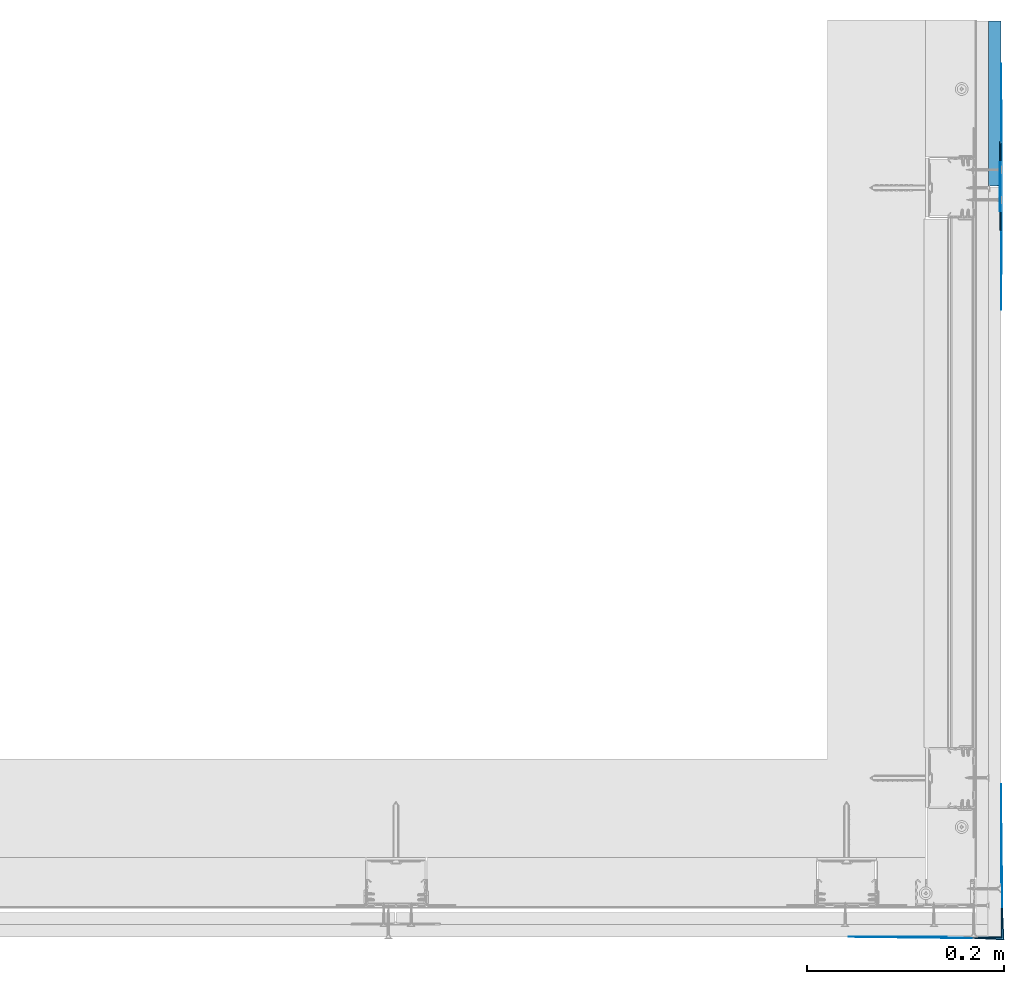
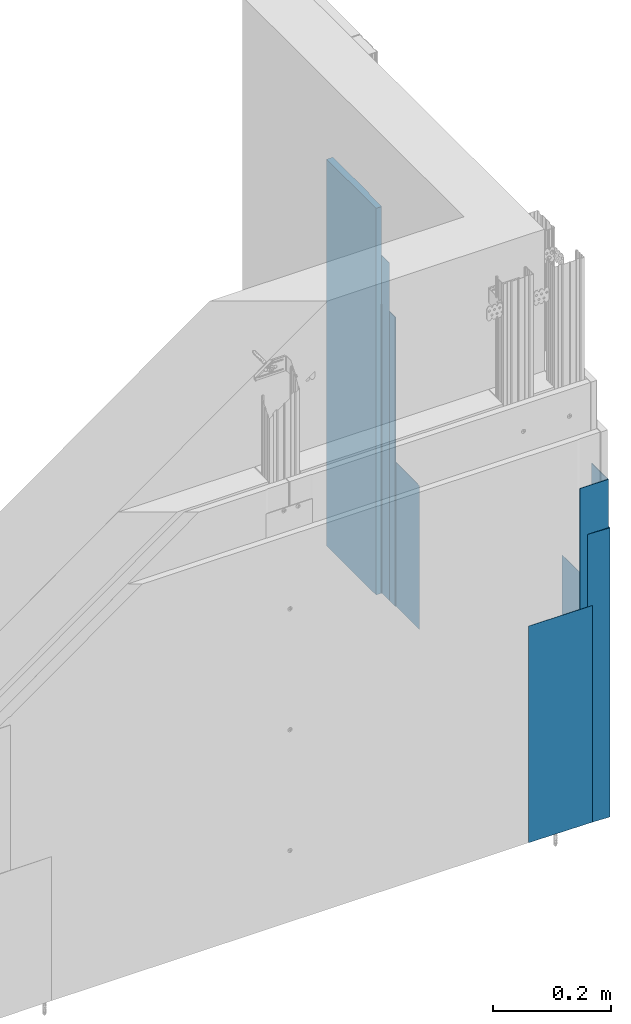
# One storey, part 6 of 56: 8 walls.
"""IFC2X3 building model written with IfcOpenShell, lengths in millimetres."""

from ifc_helpers import new_model, entity, si_unit, converted_unit, direction, frame, origin, origin_with_axes, place, context, project, spatial, faceted_brep, element, save


model = new_model("IFC2X3")

# Units and contexts
model_context = context("Model", 3, precision=1e-05, world=origin(), true_north=direction((0.0, 1.0, 0.0)))
ifc_project = project(units=[si_unit("LENGTHUNIT", "METRE", prefix="MILLI"), si_unit("AREAUNIT", "SQUARE_METRE"), si_unit("VOLUMEUNIT", "CUBIC_METRE"), converted_unit("PLANEANGLEUNIT", "DEGREE", entity("IfcPlaneAngleMeasure", 0.01745), si_unit("PLANEANGLEUNIT", "RADIAN"), dimensions=[0, 0, 0, 0, 0, 0, 0]), si_unit("SOLIDANGLEUNIT", "STERADIAN"), si_unit("MASSUNIT", "GRAM"), si_unit("TIMEUNIT", "SECOND"), si_unit("THERMODYNAMICTEMPERATUREUNIT", "DEGREE_CELSIUS"), si_unit("LUMINOUSINTENSITYUNIT", "LUMEN")], contexts=[model_context])

# Site, building, storey
site_placement = place(None, origin_with_axes())
site = spatial("IfcSite", under=ifc_project, at=site_placement, Name="Default Site", CompositionType="ELEMENT")
building_placement = place(site_placement, origin_with_axes())
building = spatial("IfcBuilding", under=site, at=building_placement, Name="Default Building", CompositionType="ELEMENT")
storey_placement = place(building_placement, origin_with_axes())
storey = spatial("IfcBuildingStorey", under=building, at=storey_placement, Name="Default Building Storey", CompositionType="ELEMENT", Elevation=0.0)

# Walls
wall_1_placement = place(storey_placement, frame((3779.592982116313, 1938.180077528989, 809.1935974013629), z_axis=(0.0, 0.0, 1.0), x_axis=(1.0, 0.0, 0.0)))
element("IfcWall", 1, at=wall_1_placement, inside=storey, Name="Taśma narożnikowa HABITO® NO-COAT®", context=model_context, shape_type="Brep", body=[
    faceted_brep([(40.99999999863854, 43.00000000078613, -201.6515786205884), (42.99999999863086, 7.829129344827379e-10, -201.6515786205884), (42.99999999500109, 3.099887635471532e-09, -800.0015816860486), (40.99999999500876, 43.0000000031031, -800.0015816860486), (-1.233746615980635e-09, 2.00000000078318, -201.6515786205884), (-4.863517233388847e-09, 2.000000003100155, -800.0015816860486), (40.99999999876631, 2.000000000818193, -201.6515786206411), (40.99999999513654, 2.000000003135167, -800.0015816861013)], [[[0, 1, 2, 3]], [[1, 4, 5, 2]], [[6, 4, 1, 0]], [[4, 6, 7, 5]], [[6, 0, 3, 7]], [[7, 3, 2, 5]]]),
])
wall_2_placement = place(storey_placement, frame((3740.592982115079, 1940.180077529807, 607.542018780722), z_axis=(0.0, 0.0, 1.0), x_axis=(1.0, 0.0, 0.0)))
element("IfcWall", 2, at=wall_2_placement, inside=storey, Name="Dedykowana masa szpachlowa Rigips - konstrukcyjna", context=model_context, shape_type="Brep", body=[
    faceted_brep([(23.99999999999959, 9.796337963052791e-10, 100.0000000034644), (23.99999999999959, 1.000000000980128, 100.000000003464), (23.99999999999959, 0.9999999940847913, -598.3500030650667), (23.99999999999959, -5.915703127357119e-09, -598.3500030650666), (79.0000000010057, 1.000000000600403, 100.0000000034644), (79.0000000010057, 0.999999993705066, -598.3500030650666), (79.0000000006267, 56.0000000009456, 100.0000000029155), (79.0000000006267, 55.99999999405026, -598.350003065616), (80.0000000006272, 56.0000000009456, 100.0000000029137), (80.0000000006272, 55.99999999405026, -598.3500030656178), (79.99999999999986, 9.796337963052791e-10, 100.0000000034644), (79.99999999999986, -5.915703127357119e-09, -598.3500030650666)], [[[0, 1, 2, 3]], [[1, 4, 5, 2]], [[4, 6, 7, 5]], [[6, 8, 9, 7]], [[8, 10, 11, 9]], [[10, 0, 3, 11]], [[11, 3, 2, 5, 7, 9]], [[0, 10, 8, 6, 4, 1]]]),
])
wall_3_placement = place(storey_placement, frame((3822.592982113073, 2096.180077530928, 607.5420187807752), z_axis=(0.0, 0.0, 1.0), x_axis=(3.609335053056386e-13, -1.0, 0.0)))
element("IfcWall", 3, at=wall_3_placement, inside=storey, Name="Dedykowana masa szpachlowa Rigips - wykończeniowa", context=model_context, shape_type="Brep", body=[
    faceted_brep([(9.023892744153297e-13, -3.000000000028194, -598.3500030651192), (100.0000000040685, -3.000000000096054, -598.3500030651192), (100.0000000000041, -2.000000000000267, -598.3500030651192), (100.0000000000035, -1.827216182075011, -598.3500030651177), (125.0248246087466, -1.533729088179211, -149.9999999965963), (1.353583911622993e-12, -3.000000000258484, -149.9999999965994), (125.0248246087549, -1.533729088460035, -598.3500030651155), (114.9999999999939, -2.000000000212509, -149.9999999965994), (100.0000000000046, -2.000000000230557, -149.9999999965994), (100.0000000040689, -3.000000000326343, -149.9999999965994)], [[[0, 1, 2, 3]], [[4, 5, 0, 3, 6]], [[4, 7, 8, 9, 5]], [[5, 9, 1, 0]], [[9, 8, 2, 1]]]),
])
wall_4_placement = place(storey_placement, frame((429.0362603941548, 1967.049872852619, 6.742018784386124), z_axis=(0.0, 0.0, 1.0), x_axis=(-5.689893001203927e-16, -1.0, 0.0)))
element("IfcWall", 4, at=wall_4_placement, inside=storey, Name="Dedykowana masa szpachlowa Rigips - konstrukcyjna", context=model_context, shape_type="Brep", body=[
    faceted_brep([(-737.4838396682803, 3387.6695906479, 600.7999999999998), (-737.4592163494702, 3387.356721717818, 600.7999999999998), (-737.434593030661, 3387.6695906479, 600.7999999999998), (-737.3613293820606, 3387.974755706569, 600.7999999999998), (-737.2412293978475, 3388.264702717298, 600.7999999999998), (-737.07725033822, 3388.532292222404, 600.7999999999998), (-736.8734299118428, 3388.770935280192, 600.7999999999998), (-736.6347868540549, 3388.974755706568, 600.7999999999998), (-736.3671973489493, 3389.138734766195, 600.7999999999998), (-736.0772503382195, 3389.258834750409, 600.7999999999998), (-735.7720852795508, 3389.332098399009, 600.7999999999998), (-735.45921634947, 3389.356721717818, 600.7999999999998), (-692.4592163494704, 3389.356721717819, 600.7999999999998), (-691.4592163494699, 3390.556721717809, 600.7999999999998), (-782.4592163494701, 3390.556721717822, 600.7999999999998), (-782.4592163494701, 3389.356721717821, 600.7999999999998), (-739.4592163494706, 3389.356721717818, 600.7999999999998), (-739.1463474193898, 3389.332098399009, 600.7999999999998), (-738.8411823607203, 3389.258834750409, 600.7999999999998), (-738.5512353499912, 3389.138734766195, 600.7999999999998), (-738.2836458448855, 3388.974755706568, 600.7999999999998), (-738.0450027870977, 3388.770935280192, 600.7999999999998), (-737.8411823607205, 3388.532292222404, 600.7999999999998), (-737.6772033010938, 3388.264702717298, 600.7999999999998), (-737.55710331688, 3387.974755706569, 600.7999999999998), (-691.4592163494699, 3390.556721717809, 2.449996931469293), (-692.4592163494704, 3389.356721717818, 2.449996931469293), (-735.45921634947, 3389.356721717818, 2.449996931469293), (-735.7720852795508, 3389.332098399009, 2.449996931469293), (-736.0772503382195, 3389.258834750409, 2.449996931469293), (-736.3671973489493, 3389.138734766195, 2.449996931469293), (-736.6347868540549, 3388.974755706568, 2.449996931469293), (-736.8734299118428, 3388.770935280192, 2.449996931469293), (-737.07725033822, 3388.532292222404, 2.449996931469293), (-737.2412293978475, 3388.264702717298, 2.449996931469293), (-737.3613293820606, 3387.974755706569, 2.449996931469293), (-737.434593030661, 3387.6695906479, 2.449996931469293), (-737.4592163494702, 3387.356721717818, 2.449996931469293), (-737.4838396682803, 3387.6695906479, 2.449996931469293), (-737.55710331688, 3387.974755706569, 2.449996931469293), (-737.6772033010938, 3388.264702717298, 2.449996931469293), (-737.8411823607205, 3388.532292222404, 2.449996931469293), (-738.0450027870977, 3388.770935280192, 2.449996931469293), (-738.2836458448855, 3388.974755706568, 2.449996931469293), (-738.5512353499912, 3389.138734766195, 2.449996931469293), (-738.8411823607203, 3389.258834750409, 2.449996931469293), (-739.1463474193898, 3389.332098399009, 2.449996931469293), (-739.4592163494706, 3389.356721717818, 2.449996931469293), (-782.4592163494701, 3389.356721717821, 2.449996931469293), (-782.4592163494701, 3390.556721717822, 2.449996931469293)], [[[0, 1, 2, 3, 4, 5, 6, 7, 8, 9, 10, 11, 12, 13, 14, 15, 16, 17, 18, 19, 20, 21, 22, 23, 24]], [[25, 26, 27, 28, 29, 30, 31, 32, 33, 34, 35, 36, 37, 38, 39, 40, 41, 42, 43, 44, 45, 46, 47, 48, 49]], [[26, 12, 11, 27]], [[10, 9, 29, 28]], [[28, 27, 11, 10]], [[8, 30, 29, 9]], [[7, 6, 32, 31]], [[31, 30, 8, 7]], [[5, 4, 34, 33]], [[33, 32, 6, 5]], [[3, 35, 34, 4]], [[2, 1, 37, 36]], [[36, 35, 3, 2]], [[0, 24, 39, 38]], [[38, 37, 1, 0]], [[23, 40, 39, 24]], [[22, 21, 42, 41]], [[41, 40, 23, 22]], [[20, 19, 44, 43]], [[43, 42, 21, 20]], [[18, 45, 44, 19]], [[17, 16, 47, 46]], [[46, 45, 18, 17]], [[47, 16, 15, 48]], [[48, 15, 14, 49]], [[49, 14, 13, 25]], [[25, 13, 12, 26]]]),
])
wall_5_placement = place(storey_placement, frame((429.0362603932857, 3440.968305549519, 6.742018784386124), z_axis=(0.0, 0.0, 1.0), x_axis=(-6.390998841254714e-13, 1.0, 0.0)))
element("IfcWall", 5, at=wall_5_placement, inside=storey, Name="Dedykowana masa szpachlowa Rigips - wykończeniowa", context=model_context, shape_type="Brep", body=[
    faceted_brep([(-612.459216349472, -3390.556721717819, 2.449996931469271), (-862.459216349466, -3390.556721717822, 2.449996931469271), (-812.4612643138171, -3391.196716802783, 2.449996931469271), (-762.4602403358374, -3391.516720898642, 2.449996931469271), (-712.458192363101, -3391.516720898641, 2.449996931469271), (-662.4571683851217, -3391.19671680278, 2.449996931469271), (-762.4602403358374, -3391.516720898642, 300.8000000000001), (-812.4612643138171, -3391.196716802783, 300.8000000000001), (-862.459216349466, -3390.556721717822, 300.8000000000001), (-612.459216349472, -3390.556721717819, 300.8000000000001), (-662.4571683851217, -3391.19671680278, 300.8000000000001), (-712.458192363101, -3391.516720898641, 300.8000000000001)], [[[0, 1, 2, 3, 4, 5]], [[6, 7, 8, 9, 10, 11]], [[9, 0, 5, 10]], [[10, 5, 4, 11]], [[11, 4, 3, 6]], [[6, 3, 2, 7]], [[1, 8, 7, 2]], [[0, 9, 8, 1]]]),
])
wall_6_placement = place(storey_placement, frame((3807.092982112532, 3904.509089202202, 1059.193597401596), z_axis=(0.0, 0.0, 1.0), x_axis=(6.387668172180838e-13, -1.0, 0.0)))
element("IfcWall", 6, at=wall_6_placement, inside=storey, Name="Płyta gipsowo-kartonowa RIGIPS PRO (4PRO™)", context=model_context, shape_type="Brep", body=[
    faceted_brep([(1032.492584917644, -2.779358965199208e-10, -249.9999999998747), (1032.492584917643, 12.49999999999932, -249.9999999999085), (1032.492584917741, 12.49999999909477, -1050.001581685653), (1032.492584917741, -1.182490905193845e-09, -1050.00158168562), (1155.0, 12.49999999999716, -249.9999999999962), (1200.0, 1.443822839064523e-12, -249.9999999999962), (1200.000000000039, 10.49999999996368, -249.9999999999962), (1199.965925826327, 10.75881904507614, -249.9999999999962), (1199.866025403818, 10.99999999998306, -249.9999999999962), (1199.707106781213, 11.20710678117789, -249.9999999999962), (1199.50000000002, 11.36602540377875, -249.9999999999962), (1199.258819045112, 11.46592582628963, -249.9999999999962), (1199.0, 11.50000000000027, -249.9999999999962), (1158.999999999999, 11.50000000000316, -249.9999999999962), (1199.965925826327, 10.75881904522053, -1050.001581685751), (1199.866025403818, 11.00000000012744, -1050.001581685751), (1199.707106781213, 11.20710678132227, -1050.001581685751), (1199.50000000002, 11.36602540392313, -1050.001581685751), (1199.258819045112, 11.46592582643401, -1050.001581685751), (1199.0, 11.50000000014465, -1050.001581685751), (1158.999999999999, 11.50000000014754, -1050.001581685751), (1155.0, 12.50000000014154, -1050.001581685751), (1200.0, 1.458261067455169e-10, -1050.001581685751), (1200.000000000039, 10.50000000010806, -1050.001581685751)], [[[0, 1, 2, 3]], [[4, 1, 0, 5, 6, 7, 8, 9, 10, 11, 12, 13]], [[8, 7, 14, 15]], [[9, 8, 15, 16]], [[10, 9, 16, 17]], [[11, 10, 17, 18]], [[12, 11, 18, 19]], [[13, 12, 19, 20]], [[4, 13, 20, 21]], [[21, 2, 1, 4]], [[0, 3, 22, 5]], [[6, 5, 22, 23]], [[7, 6, 23, 14]], [[14, 23, 22, 3, 2, 21, 20, 19, 18, 17, 16, 15]]]),
])
wall_7_placement = place(storey_placement, frame((429.0362603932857, 3440.968305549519, 6.742018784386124), z_axis=(0.0, 0.0, 1.0), x_axis=(-6.390998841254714e-13, 1.0, 0.0)))
element("IfcWall", 7, at=wall_7_placement, inside=storey, Name="Taśma spoinowa RIGIPS", context=model_context, shape_type="Brep", body=[
    faceted_brep([(-712.4592163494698, -3389.356721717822, 700.7999999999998), (-712.4592163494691, -3389.856721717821, 700.7999999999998), (-762.4592163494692, -3389.856721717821, 700.7999999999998), (-762.45921634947, -3389.35672171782, 700.7999999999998), (-712.4592163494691, -3389.856721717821, 2.449996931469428), (-712.4592163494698, -3389.35672171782, 2.449996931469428), (-762.45921634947, -3389.35672171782, 2.449996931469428), (-762.4592163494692, -3389.856721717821, 2.449996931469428)], [[[0, 1, 2, 3]], [[4, 5, 6, 7]], [[5, 0, 3, 6]], [[6, 3, 2, 7]], [[7, 2, 1, 4]], [[4, 1, 0, 5]]]),
])
wall_8_placement = place(storey_placement, frame((3664.56815750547, 1938.180077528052, 607.5420187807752), z_axis=(0.0, 0.0, 1.0), x_axis=(1.0, 3.609779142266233e-13, 0.0)))
element("IfcWall", 8, at=wall_8_placement, inside=storey, Name="Dedykowana masa szpachlowa Rigips - wykończeniowa", context=model_context, shape_type="Brep", body=[
    faceted_brep([(9.009820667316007e-13, 3.000000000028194, -598.3500030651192), (100.0000000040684, 3.000000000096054, -598.3500030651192), (100.000000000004, 2.000000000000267, -598.3500030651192), (100.0000000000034, 1.827216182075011, -598.3500030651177), (125.0248246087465, 1.533729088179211, -149.9999999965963), (1.352176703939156e-12, 3.000000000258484, -149.9999999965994), (125.0248246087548, 1.533729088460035, -598.3500030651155), (114.9999999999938, 2.000000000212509, -149.9999999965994), (100.0000000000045, 2.000000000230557, -149.9999999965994), (100.0000000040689, 3.000000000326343, -149.9999999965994)], [[[0, 1, 2, 3]], [[4, 5, 0, 3, 6]], [[4, 7, 8, 9, 5]], [[5, 9, 1, 0]], [[9, 8, 2, 1]]]),
])

save(model, "model.ifc")
